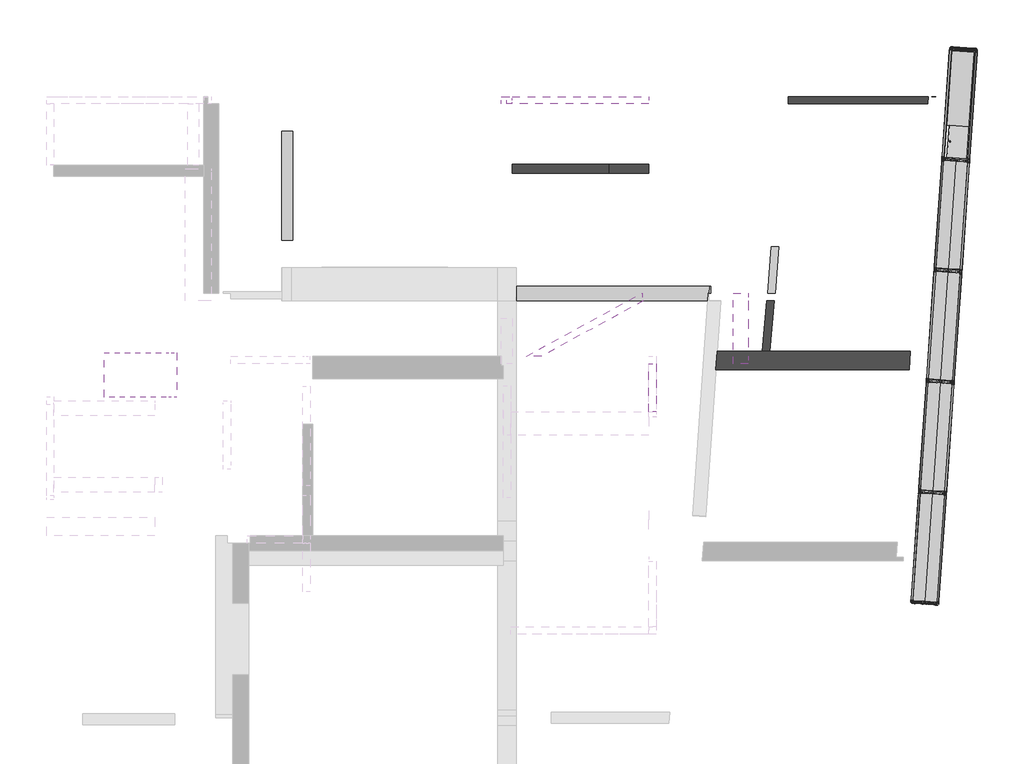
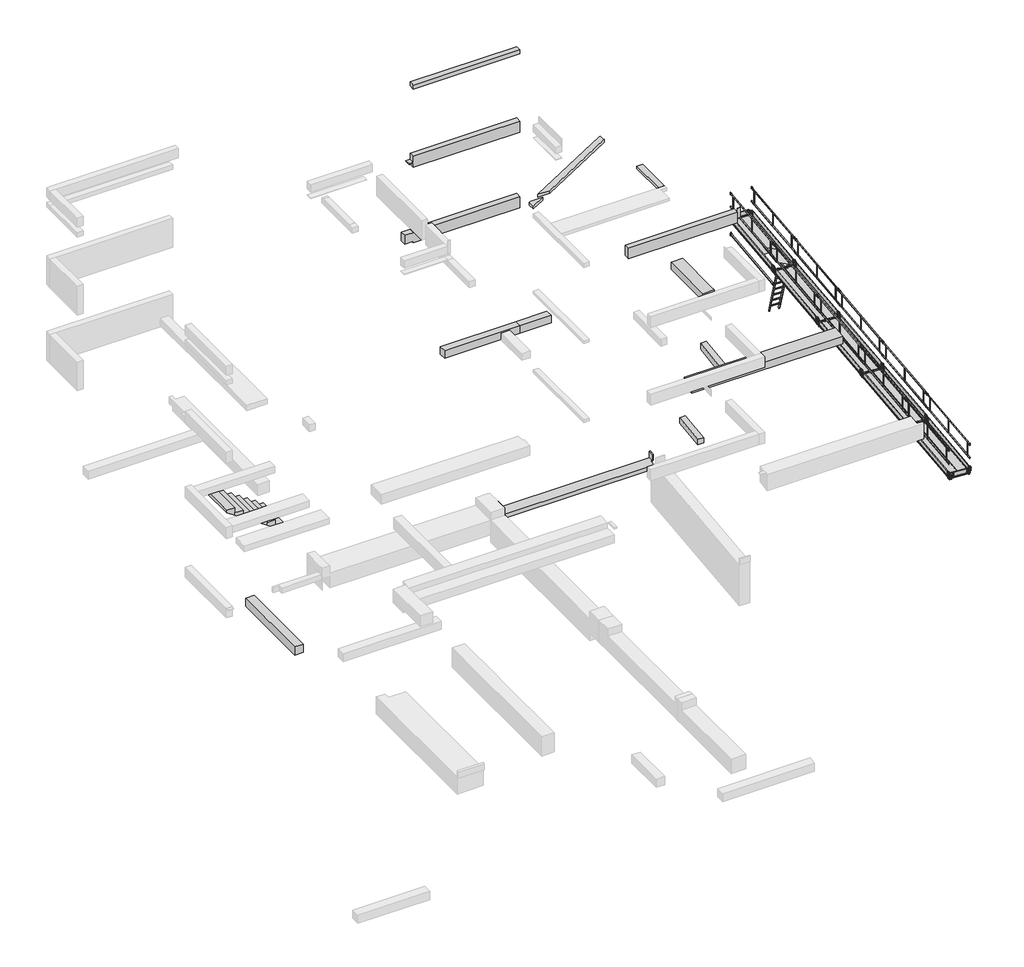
# One storey, part 3 of 3: 60 proxies, 14 beams, 1 stair flight.
"""IFC4 building model written with IfcOpenShell, lengths in millimetres."""

from ifc_helpers import new_model, si_unit, frame, origin, place, context, project, spatial, polyline, outline, extrude, faceted_brep, transform, mapped, element, save
from components import generic_models_b6224320, generic_models_870fb608, generic_models_6026e95e, generic_models_c9bf4d4e, generic_models_8fe25d63, generic_models_f49ab637, proxy_03_lisse_70_0da8a22d, proxy_04_lisse_3_m_913477d2

model = new_model("IFC4")

# Units and contexts
model_context = context("Model", 3, world=origin())
ifc_project = project(units=[si_unit("LENGTHUNIT", "METRE", prefix="MILLI")], contexts=[model_context])

# Site, building, storey
site = spatial("IfcSite", under=ifc_project)
building = spatial("IfcBuilding", under=site)
storey = spatial("IfcBuildingStorey", under=building, Name="02-Plateau 2", Elevation=2400.0)

# Beams
placement = place(None, origin())
element("IfcBeam", 1, ObjectType="Poutre rectangulaire - Béton : Coulée en place500x500 mm", at=placement, inside=storey, context=model_context, shape_type="Brep", body=[
    faceted_brep([(11980.8561586, 11619.8622276, 3780.0), (11980.8561586, 11619.8622276, 3510.0), (17203.2532738, 11619.8622276, 3510.0), (17203.2532738, 11619.8622276, 3780.0), (12015.8195646, 12119.8622276, 3510.0), (13239.5776398, 12119.8622276, 3510.0), (13440.3416073, 12119.8622276, 3510.0), (17238.2166797, 12119.8622276, 3510.0), (12015.8195646, 12119.8622276, 3780.0), (17238.2166797, 12119.8622276, 3780.0)], [[[0, 1, 2, 3]], [[1, 4, 5, 6, 7, 2]], [[4, 8, 9, 7, 6, 5]], [[1, 0, 8, 4]], [[3, 2, 7, 9]], [[0, 3, 9, 8]]]),
])
element("IfcBeam", 2, ObjectType="Poutre rectangulaire - Béton : Coulée en place 25x50", at=placement, inside=storey, context=model_context, shape_type="Brep", body=[
    faceted_brep([(6482.9552204, 16924.8622276, 3510.0), (9092.9552204, 16924.8622276, 3510.0), (9092.9552204, 16924.8622276, 3780.0), (6482.9552204, 16924.8622276, 3780.0), (9092.9552204, 17174.8622276, 3510.0), (6482.9552204, 17174.8622276, 3510.0), (6482.9552204, 17174.8622276, 3690.0), (6482.9552204, 17174.8622276, 3780.0), (9092.9552204, 17174.8622276, 3780.0)], [[[0, 1, 2, 3]], [[4, 1, 0, 5]], [[4, 5, 6, 7, 8]], [[1, 4, 8, 2]], [[5, 0, 3, 7, 6]], [[3, 2, 8, 7]]]),
])
element("IfcBeam", 3, ObjectType="Poutre rectangulaire - Béton : Coulée en place 25x50", at=placement, inside=storey, context=model_context, shape_type="Brep", body=[
    faceted_brep([(9092.9552204, 16924.8622276, 3510.0), (10172.9552204, 16924.8622276, 3510.0), (10172.9552204, 16924.8622276, 3780.0), (9092.9552204, 16924.8622276, 3780.0), (9092.9552204, 17174.8622276, 3510.0), (10172.9552204, 17174.8622276, 3510.0), (9092.9552204, 17174.8622276, 3780.0), (10172.9552204, 17174.8622276, 3780.0), (10172.9552204, 17174.8622276, 3690.0)], [[[0, 1, 2, 3]], [[0, 4, 5, 1]], [[5, 4, 6, 7, 8]], [[4, 0, 3, 6]], [[1, 5, 8, 7, 2]], [[3, 2, 7, 6]]]),
])
element("IfcBeam", 4, ObjectType="Poutre rectangulaire - Béton : Coulée en place 20x60", at=placement, inside=storey, context=model_context, shape_type="SweptSolid", body=[
    extrude(outline(polyline([(17719.3131459, 18999.8622276), (17705.3277835, 18799.8622276), (13932.9552204, 18799.8622276), (13936.6630444, 18852.8865803), (13932.9552204, 18853.1458566), (13932.9552204, 18999.8622276), (17719.3131459, 18999.8622276)])), frame((0.0, 0.0, 3410.0), z_axis=(0.0, 0.0, 1.0), x_axis=(1.0, 0.0, 0.0)), (0.0, 0.0, 1.0), 370.0),
    extrude(outline(polyline([(17919.8015255, 18999.8622276), (17919.3137407, 18992.8865803), (17819.5573357, 18999.8622276), (17919.8015255, 18999.8622276)])), frame((0.0, 0.0, 3410.0), z_axis=(0.0, 0.0, 1.0), x_axis=(1.0, 0.0, 0.0)), (0.0, 0.0, 1.0), 370.0),
])
element("IfcBeam", 5, ObjectType="Poutre rectangulaire - Béton : Coulée en place 20x40", at=placement, inside=storey, context=model_context, shape_type="Brep", body=[
    faceted_brep([(6482.9552204, 18999.8622276, 6590.0), (6482.9552204, 18999.8622276, 6650.0), (6182.9552204, 18999.8622276, 6650.0), (6182.9552204, 18999.8622276, 6770.0), (6182.9552204, 18999.8622276, 6970.0), (6482.9552204, 18999.8622276, 6970.0), (6482.9552204, 18999.8622276, 6990.0), (10172.9552204, 18999.8622276, 6990.0), (10172.9552204, 18999.8622276, 6900.0), (10172.9552204, 18999.8622276, 6650.0), (10172.9552204, 18999.8622276, 6590.0), (6482.9552204, 18799.8622276, 6590.0), (10172.9552204, 18799.8622276, 6590.0), (6482.9552204, 18799.8622276, 6650.0), (10172.9552204, 18799.8622276, 6660.0), (10172.9552204, 18799.8622276, 6900.0), (10172.9552204, 18799.8622276, 6990.0), (6482.9552204, 18799.8622276, 6990.0), (6482.9552204, 18799.8622276, 6970.0), (6182.9552204, 18799.8622276, 6970.0), (6182.9552204, 18799.8622276, 6900.0), (6182.9552204, 18799.8622276, 6770.0), (6182.9552204, 18799.8622276, 6650.0)], [[[0, 1, 2, 3, 4, 5, 6, 7, 8, 9, 10]], [[11, 0, 10, 12]], [[13, 11, 12, 14, 15, 16, 17, 18, 19, 20, 21, 22]], [[16, 7, 6, 17]], [[22, 21, 20, 19, 4, 3, 2]], [[7, 16, 15, 14, 12, 10, 9, 8]], [[1, 0, 11, 13]], [[1, 13, 22, 2]], [[5, 18, 17, 6]], [[18, 5, 4, 19]]]),
])
element("IfcBeam", 6, ObjectType="Poutre rectangulaire - Béton : Coulée en place 20x40", at=placement, inside=storey, context=model_context, shape_type="Brep", body=[
    faceted_brep([(6482.9552204, 18999.8622276, 9360.0), (6482.9552204, 18999.8622276, 9510.0), (6332.9552204, 18999.8622276, 9510.0), (6332.9552204, 18999.8622276, 9540.0), (6482.9552204, 18999.8622276, 9540.0), (6482.9552204, 18999.8622276, 9740.0), (6482.9552204, 18999.8622276, 9760.0), (10172.9552204, 18999.8622276, 9760.0), (10172.9552204, 18999.8622276, 9740.0), (10172.9552204, 18999.8622276, 9540.0), (10172.9552204, 18999.8622276, 9360.0), (10172.9552204, 18799.8622276, 9360.0), (6482.9552204, 18799.8622276, 9360.0), (6482.9552204, 18799.8622276, 9510.0), (6482.9552204, 18799.8622276, 9430.0), (10172.9552204, 18799.8622276, 9430.0), (10172.9552204, 18799.8622276, 9670.0), (10172.9552204, 18799.8622276, 9760.0), (6482.9552204, 18799.8622276, 9760.0), (6482.9552204, 18799.8622276, 9670.0), (6482.9552204, 18799.8622276, 9540.0), (6332.9552204, 18799.8622276, 9540.0), (6332.9552204, 18799.8622276, 9510.0)], [[[0, 1, 2, 3, 4, 5, 6, 7, 8, 9, 10]], [[10, 11, 12, 0]], [[13, 14, 12, 11, 15, 16, 17, 18, 19, 20, 21, 22]], [[17, 7, 6, 18]], [[11, 10, 9, 8, 7, 17, 16, 15]], [[1, 0, 12, 14, 13]], [[1, 13, 22, 2]], [[4, 3, 21, 20]], [[4, 20, 19, 18, 6, 5]], [[2, 22, 21, 3]]]),
])
element("IfcBeam", 7, ObjectType="Poutre rectangulaire - Béton : Coulée en place 20x61", at=placement, inside=storey, context=model_context, shape_type="Brep", body=[
    faceted_brep([(10172.9552204, 18999.8622276, 12220.0), (10172.9552204, 18799.8622276, 12220.0), (6482.9552204, 18799.8622276, 12220.0), (6482.9552204, 18999.8622276, 12220.0), (10172.9552204, 18799.8622276, 12370.0), (6482.9552204, 18799.8622276, 12370.0), (10172.9552204, 18999.8622276, 12370.0), (6482.9552204, 18899.8622276, 12370.0), (6482.9552204, 18999.8622276, 12370.0)], [[[0, 1, 2, 3]], [[1, 4, 5, 2]], [[0, 6, 4, 1]], [[2, 5, 7, 8, 3]], [[8, 7, 5, 4, 6]], [[6, 0, 3, 8]]]),
])
element("IfcBeam", 8, ObjectType="Poutre rectangulaire - Béton : Coulée en place 20x30", at=placement, inside=storey, context=model_context, shape_type="SweptSolid", body=[
    extrude(outline(polyline([(9997.9552204, 13479.8622276), (10023.4648011, 13479.8622276), (7274.7148011, 11979.8622276), (6857.1956398, 11979.8622276), (9972.4456398, 13679.8622276), (9997.9552204, 13679.8622276), (9997.9552204, 13479.8622276)])), frame((0.0, 0.0, 12270.0), z_axis=(0.0, 0.0, 1.0), x_axis=(1.0, 0.0, 0.0)), (0.0, 0.0, 1.0), 100.0),
    extrude(outline(polyline([(6490.6956398, 11779.8622276), (6908.2148011, 11779.8622276), (6432.9552204, 11520.5118426), (6432.9552204, 11748.3531311), (6490.6956398, 11779.8622276)])), frame((0.0, 0.0, 12270.0), z_axis=(0.0, 0.0, 1.0), x_axis=(1.0, 0.0, 0.0)), (0.0, 0.0, 1.0), 100.0),
])
element("IfcBeam", 9, ObjectType="Poutre rectangulaire - Béton : Coulée en place 40x38", at=placement, inside=storey, context=model_context, shape_type="Brep", body=[
    faceted_brep([(11845.6552204, 13879.8622276, -150.0), (11845.6552204, 13879.8622276, 80.0), (11845.6552204, 13686.837875, 80.0), (11845.6552204, 13686.837875, -150.0), (11803.6869502, 13686.837875, -150.0), (11817.1845278, 13879.8622276, -150.0), (11803.6869502, 13686.837875, 80.0), (11817.1845278, 13879.8622276, 80.0)], [[[0, 1, 2, 3]], [[0, 3, 4, 5]], [[3, 2, 6, 4]], [[7, 5, 4, 6]], [[1, 0, 5, 7]], [[2, 1, 7, 6]]]),
    faceted_brep([(6580.6552204, 13879.8622276, -300.0), (6580.6552204, 13879.8622276, 80.0), (6582.9552204, 13879.8622276, 80.0), (6582.9552204, 13879.8622276, -150.0), (11812.3364137, 13879.8622276, -150.0), (11812.3364137, 13879.8622276, -300.0), (6582.9552204, 13479.8622276, -300.0), (6582.9552204, 13579.8622276, -300.0), (6580.6552204, 13579.8622276, -300.0), (11798.838836, 13686.837875, -300.0), (11789.8015255, 13686.837875, -300.0), (11789.8015255, 13679.8622276, -300.0), (11774.0507269, 13679.8622276, -300.0), (11760.0653645, 13479.8622276, -300.0), (6582.9552204, 13479.8622276, -190.0), (11760.0653645, 13479.8622276, -150.0), (6582.9552204, 13479.8622276, -150.0), (6580.6552204, 13579.8622276, 80.0), (6582.9552204, 13579.8622276, 80.0), (6582.9552204, 13579.8622276, -150.0), (11774.0507269, 13679.8622276, -150.0), (11789.8015255, 13679.8622276, -150.0), (11789.8015255, 13686.837875, -150.0), (11798.838836, 13686.837875, -150.0)], [[[0, 1, 2, 3, 4, 5]], [[6, 7, 8, 0, 5, 9, 10, 11, 12, 13]], [[14, 6, 13, 15, 16]], [[1, 17, 18, 2]], [[7, 6, 14, 16, 19]], [[8, 7, 19, 18, 17]], [[1, 0, 8, 17]], [[3, 19, 16, 15, 20, 21, 22, 23, 4]], [[5, 4, 23, 9]], [[13, 12, 20, 15]], [[12, 11, 21, 20]], [[11, 10, 22, 21]], [[19, 3, 2, 18]], [[10, 9, 23, 22]]]),
])
element("IfcBeam", 10, ObjectType="Poutre rectangulaire - Béton : longrine 30x30", at=placement, inside=storey, context=model_context, shape_type="SweptSolid", body=[
    extrude(outline(polyline([(548.2393357, 15124.8622276), (248.2393357, 15124.8622276), (248.2393357, 18069.8622276), (548.2393357, 18069.8622276), (548.2393357, 15124.8622276)])), frame((0.0, 0.0, -4090.0), z_axis=(0.0, 0.0, 1.0), x_axis=(1.0, 0.0, 0.0)), (0.0, 0.0, 1.0), 300.0),
])
element("IfcBeam", 11, ObjectType="Poutre rectangulaire - Béton : BN 20x20", at=placement, inside=storey, context=model_context, shape_type="SweptSolid", body=[
    extrude(outline(polyline([(10173.5257924, 11779.8622276), (10373.5257924, 11779.8622276), (10373.5257924, 10479.8622276), (10173.5257924, 10479.8622276), (10173.5257924, 11779.8622276)])), frame((0.0, 0.0, 12270.0), z_axis=(0.0, 0.0, 1.0), x_axis=(1.0, 0.0, 0.0)), (0.0, 0.0, 1.0), 100.0),
])
element("IfcBeam", 12, ObjectType="Poutre rectangulaire - Béton : BN 20x23", at=placement, inside=storey, context=model_context, shape_type="SweptSolid", body=[
    extrude(outline(polyline([(13358.5622222, 13479.8622276), (13559.3261897, 13479.8622276), (13440.3416073, 12119.8622276), (13239.5776398, 12119.8622276), (13358.5622222, 13479.8622276)])), frame((0.0, 0.0, 3510.0), z_axis=(0.0, 0.0, 1.0), x_axis=(1.0, 0.0, 0.0)), (0.0, 0.0, 1.0), 230.0),
])
element("IfcBeam", 13, ObjectType="Poutre rectangulaire - Béton : BN 40x25", at=placement, inside=storey, context=model_context, shape_type="Brep", body=[
    faceted_brep([(12853.5257924, 13679.8622276, 6650.0), (12853.5257924, 13679.8622276, 6900.0), (12853.5257924, 11979.8622276, 6900.0), (12853.5257924, 11779.8622276, 6900.0), (12853.5257924, 11779.8622276, 6650.0), (12853.5257924, 11979.8622276, 6650.0), (12853.5257924, 13479.8622276, 6650.0), (12453.5257924, 13679.8622276, 6650.0), (12453.5257924, 11779.8622276, 6650.0), (12453.5257924, 13679.8622276, 6900.0), (12453.5257924, 11779.8622276, 6900.0)], [[[0, 1, 2, 3, 4, 5, 6]], [[7, 0, 6, 5, 4, 8]], [[9, 7, 8, 10]], [[1, 9, 10, 3, 2]], [[1, 0, 7, 9]], [[4, 3, 10, 8]]]),
])
element("IfcBeam", 14, ObjectType="Poutre rectangulaire - Béton : PR 20x20", at=placement, inside=storey, context=model_context, shape_type="SweptSolid", body=[
    extrude(outline(polyline([(13588.6331733, 13686.837875), (13388.1447937, 13686.837875), (13476.2525768, 14946.837875), (13676.7409564, 14946.837875), (13588.6331733, 13686.837875)])), frame((0.0, 0.0, -120.0), z_axis=(0.0, 0.0, 1.0), x_axis=(1.0, 0.0, 0.0)), (0.0, 0.0, 1.0), 200.0),
])

# Proxies
generic_models_shape = generic_models_b6224320(model_context)
element("IfcBuildingElementProxy", 15, Name="05-Plateau 3.00 m : JPA Plateau Galva", ObjectType="05-Plateau 3.00 m : JPA Plateau Galva", at=placement, inside=storey, context=model_context, shape_type="MappedRepresentation", body=[
    mapped(generic_models_shape, transform((17696.6144519, 11330.0091436, 2400.0), x_axis=(0.06975647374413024, 0.997564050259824, 0.0), y_axis=(-0.997564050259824, 0.06975647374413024, 0.0), z_axis=(0.0, 0.0, 1.0))),
])
element("IfcBuildingElementProxy", 16, Name="05-Plateau 3.00 m : JPA Plateau Galva", ObjectType="05-Plateau 3.00 m : JPA Plateau Galva", at=placement, inside=storey, context=model_context, shape_type="MappedRepresentation", body=[
    mapped(generic_models_shape, transform((17487.1106496, 8333.9651875, 2400.0), x_axis=(0.06975647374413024, 0.997564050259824, 0.0), y_axis=(-0.997564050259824, 0.06975647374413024, 0.0), z_axis=(0.0, 0.0, 1.0))),
])
element("IfcBuildingElementProxy", 17, Name="05-Plateau 3.00 m : JPA Plateau Galva", ObjectType="05-Plateau 3.00 m : JPA Plateau Galva", at=placement, inside=storey, context=model_context, shape_type="MappedRepresentation", body=[
    mapped(generic_models_shape, transform((17806.3311456, 8311.6431159, 2400.0), x_axis=(0.06975647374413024, 0.997564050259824, 0.0), y_axis=(-0.997564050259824, 0.06975647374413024, 0.0), z_axis=(0.0, 0.0, 1.0))),
])
element("IfcBuildingElementProxy", 18, Name="05-Plateau 3.00 m : JPA Plateau Galva", ObjectType="05-Plateau 3.00 m : JPA Plateau Galva", at=placement, inside=storey, context=model_context, shape_type="MappedRepresentation", body=[
    mapped(generic_models_shape, transform((17906.3948877, 14330.0091436, 2400.0), x_axis=(0.06975647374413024, 0.997564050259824, 0.0), y_axis=(-0.997564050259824, 0.06975647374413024, 0.0), z_axis=(0.0, 0.0, 1.0))),
])
element("IfcBuildingElementProxy", 19, Name="05-Plateau 3.00 m : JPA Plateau Galva", ObjectType="05-Plateau 3.00 m : JPA Plateau Galva", at=placement, inside=storey, context=model_context, shape_type="MappedRepresentation", body=[
    mapped(generic_models_shape, transform((17277.6068473, 5337.9212313, 2400.0), x_axis=(0.06975647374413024, 0.997564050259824, 0.0), y_axis=(-0.997564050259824, 0.06975647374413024, 0.0), z_axis=(0.0, 0.0, 1.0))),
])
element("IfcBuildingElementProxy", 20, Name="05-Plateau 3.00 m : JPA Plateau Galva", ObjectType="05-Plateau 3.00 m : JPA Plateau Galva", at=placement, inside=storey, context=model_context, shape_type="MappedRepresentation", body=[
    mapped(generic_models_shape, transform((17596.8273433, 5315.5991597, 2400.0), x_axis=(0.06975647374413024, 0.997564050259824, 0.0), y_axis=(-0.997564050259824, 0.06975647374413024, 0.0), z_axis=(0.0, 0.0, 1.0))),
])
generic_models_2_shape = generic_models_870fb608(model_context)
element("IfcBuildingElementProxy", 21, Name="07-Plancher trappe : JPA Plancher trappe", ObjectType="07-Plancher trappe : JPA Plancher trappe", at=placement, inside=storey, context=model_context, shape_type="MappedRepresentation", body=[
    mapped(generic_models_2_shape, transform((18805.6452405, 17256.0250248, 2400.0), x_axis=(0.0697564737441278, 0.9975640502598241, 0.0), y_axis=(-0.9975640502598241, 0.0697564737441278, 0.0), z_axis=(0.0, 0.0, 1.0))),
])
generic_models_3_shape = generic_models_6026e95e(model_context)
element("IfcBuildingElementProxy", 22, Name="11-Plinthe 0.70 : JPA Plinthe 0.70", ObjectType="11-Plinthe 0.70 : JPA Plinthe 0.70", at=placement, inside=storey, context=model_context, shape_type="MappedRepresentation", body=[
    mapped(generic_models_3_shape, transform((17293.9283677, 5332.6495195, 2400.0), x_axis=(0.9970739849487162, -0.07644258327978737, 0.0), y_axis=(0.07644258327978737, 0.9970739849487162, 0.0), z_axis=(0.0, 0.0, 1.0))),
])
element("IfcBuildingElementProxy", 23, Name="11-Plinthe 0.70 : JPA Plinthe 0.70", ObjectType="11-Plinthe 0.70 : JPA Plinthe 0.70", at=placement, inside=storey, context=model_context, shape_type="MappedRepresentation", body=[
    mapped(generic_models_3_shape, transform((18342.1895888, 20323.4833915, 2400.0), x_axis=(0.9970739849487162, -0.07644258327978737, 0.0), y_axis=(0.07644258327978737, 0.9970739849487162, 0.0), z_axis=(0.0, 0.0, 1.0))),
])
generic_models_4_shape = generic_models_c9bf4d4e(model_context)
element("IfcBuildingElementProxy", 24, Name="12-Plinthe 3 m : JPA Plinthe 3 m", ObjectType="12-Plinthe 3 m : JPA Plinthe 3 m", at=placement, inside=storey, context=model_context, shape_type="MappedRepresentation", body=[
    mapped(generic_models_4_shape, transform((17696.788843, 11332.5030537, 2400.0), x_axis=(0.06975647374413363, 0.9975640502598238, 0.0), y_axis=(-0.9975640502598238, 0.06975647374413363, 0.0), z_axis=(0.0, 0.0, 1.0))),
])
element("IfcBuildingElementProxy", 25, Name="12-Plinthe 3 m : JPA Plinthe 3 m", ObjectType="12-Plinthe 3 m : JPA Plinthe 3 m", at=placement, inside=storey, context=model_context, shape_type="MappedRepresentation", body=[
    mapped(generic_models_4_shape, transform((18395.0836782, 11283.6735221, 2400.0), x_axis=(0.06975647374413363, 0.9975640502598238, 0.0), y_axis=(-0.9975640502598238, 0.06975647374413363, 0.0), z_axis=(0.0, 0.0, 1.0))),
])
element("IfcBuildingElementProxy", 26, Name="12-Plinthe 3 m : JPA Plinthe 3 m", ObjectType="12-Plinthe 3 m : JPA Plinthe 3 m", at=placement, inside=storey, context=model_context, shape_type="MappedRepresentation", body=[
    mapped(generic_models_4_shape, transform((17906.2926453, 14328.5470098, 2400.0), x_axis=(0.06975647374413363, 0.9975640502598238, 0.0), y_axis=(-0.9975640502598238, 0.06975647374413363, 0.0), z_axis=(0.0, 0.0, 1.0))),
])
element("IfcBuildingElementProxy", 27, Name="12-Plinthe 3 m : JPA Plinthe 3 m", ObjectType="12-Plinthe 3 m : JPA Plinthe 3 m", at=placement, inside=storey, context=model_context, shape_type="MappedRepresentation", body=[
    mapped(generic_models_4_shape, transform((18604.5874805, 14279.7174782, 2400.0), x_axis=(0.06975647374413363, 0.9975640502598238, 0.0), y_axis=(-0.9975640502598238, 0.06975647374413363, 0.0), z_axis=(0.0, 0.0, 1.0))),
])
element("IfcBuildingElementProxy", 28, Name="12-Plinthe 3 m : JPA Plinthe 3 m", ObjectType="12-Plinthe 3 m : JPA Plinthe 3 m", at=placement, inside=storey, context=model_context, shape_type="MappedRepresentation", body=[
    mapped(generic_models_4_shape, transform((18115.7964476, 17324.590966, 2400.0), x_axis=(0.06975647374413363, 0.9975640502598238, 0.0), y_axis=(-0.9975640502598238, 0.06975647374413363, 0.0), z_axis=(0.0, 0.0, 1.0))),
])
element("IfcBuildingElementProxy", 29, Name="12-Plinthe 3 m : JPA Plinthe 3 m", ObjectType="12-Plinthe 3 m : JPA Plinthe 3 m", at=placement, inside=storey, context=model_context, shape_type="MappedRepresentation", body=[
    mapped(generic_models_4_shape, transform((18814.0912828, 17275.7614343, 2400.0), x_axis=(0.06975647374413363, 0.9975640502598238, 0.0), y_axis=(-0.9975640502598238, 0.06975647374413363, 0.0), z_axis=(0.0, 0.0, 1.0))),
])
element("IfcBuildingElementProxy", 30, Name="12-Plinthe 3 m : JPA Plinthe 3 m", ObjectType="12-Plinthe 3 m : JPA Plinthe 3 m", at=placement, inside=storey, context=model_context, shape_type="MappedRepresentation", body=[
    mapped(generic_models_4_shape, transform((17487.2850407, 8336.4590976, 2400.0), x_axis=(0.06975647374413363, 0.9975640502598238, 0.0), y_axis=(-0.9975640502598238, 0.06975647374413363, 0.0), z_axis=(0.0, 0.0, 1.0))),
])
element("IfcBuildingElementProxy", 31, Name="12-Plinthe 3 m : JPA Plinthe 3 m", ObjectType="12-Plinthe 3 m : JPA Plinthe 3 m", at=placement, inside=storey, context=model_context, shape_type="MappedRepresentation", body=[
    mapped(generic_models_4_shape, transform((18185.5798759, 8287.629566, 2400.0), x_axis=(0.06975647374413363, 0.9975640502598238, 0.0), y_axis=(-0.9975640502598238, 0.06975647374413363, 0.0), z_axis=(0.0, 0.0, 1.0))),
])
element("IfcBuildingElementProxy", 32, Name="12-Plinthe 3 m : JPA Plinthe 3 m", ObjectType="12-Plinthe 3 m : JPA Plinthe 3 m", at=placement, inside=storey, context=model_context, shape_type="MappedRepresentation", body=[
    mapped(generic_models_4_shape, transform((17277.7812384, 5340.4151415, 2400.0), x_axis=(0.06975647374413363, 0.9975640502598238, 0.0), y_axis=(-0.9975640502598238, 0.06975647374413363, 0.0), z_axis=(0.0, 0.0, 1.0))),
])
element("IfcBuildingElementProxy", 33, Name="12-Plinthe 3 m : JPA Plinthe 3 m", ObjectType="12-Plinthe 3 m : JPA Plinthe 3 m", at=placement, inside=storey, context=model_context, shape_type="MappedRepresentation", body=[
    mapped(generic_models_4_shape, transform((17976.0760736, 5291.5856098, 2400.0), x_axis=(0.06975647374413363, 0.9975640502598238, 0.0), y_axis=(-0.9975640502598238, 0.06975647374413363, 0.0), z_axis=(0.0, 0.0, 1.0))),
])
generic_models_5_shape = generic_models_8fe25d63(model_context)
element("IfcBuildingElementProxy", 34, Name="14-Garde corps 300 : JPA Garde corps 300", ObjectType="14-Garde corps 300 : JPA Garde corps 300", at=placement, inside=storey, context=model_context, shape_type="MappedRepresentation", body=[
    mapped(generic_models_5_shape, transform((17696.7673576, 11331.7493383, 2400.0), x_axis=(0.06975647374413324, 0.9975640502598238, 0.0), y_axis=(-0.9975640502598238, 0.06975647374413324, 0.0), z_axis=(0.0, 0.0, 1.0))),
])
element("IfcBuildingElementProxy", 35, Name="14-Garde corps 300 : JPA Garde corps 300", ObjectType="14-Garde corps 300 : JPA Garde corps 300", at=placement, inside=storey, context=model_context, shape_type="MappedRepresentation", body=[
    mapped(generic_models_5_shape, transform((17906.2711598, 14327.7932944, 2400.0), x_axis=(0.06975647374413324, 0.9975640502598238, 0.0), y_axis=(-0.9975640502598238, 0.06975647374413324, 0.0), z_axis=(0.0, 0.0, 1.0))),
])
element("IfcBuildingElementProxy", 36, Name="14-Garde corps 300 : JPA Garde corps 300", ObjectType="14-Garde corps 300 : JPA Garde corps 300", at=placement, inside=storey, context=model_context, shape_type="MappedRepresentation", body=[
    mapped(generic_models_5_shape, transform((18115.7749621, 17323.8372506, 2400.0), x_axis=(0.06975647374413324, 0.9975640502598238, 0.0), y_axis=(-0.9975640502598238, 0.06975647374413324, 0.0), z_axis=(0.0, 0.0, 1.0))),
])
element("IfcBuildingElementProxy", 37, Name="14-Garde corps 300 : JPA Garde corps 300", ObjectType="14-Garde corps 300 : JPA Garde corps 300", at=placement, inside=storey, context=model_context, shape_type="MappedRepresentation", body=[
    mapped(generic_models_5_shape, transform((17487.2635553, 8335.7053822, 2400.0), x_axis=(0.06975647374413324, 0.9975640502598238, 0.0), y_axis=(-0.9975640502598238, 0.06975647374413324, 0.0), z_axis=(0.0, 0.0, 1.0))),
])
element("IfcBuildingElementProxy", 38, Name="14-Garde corps 300 : JPA Garde corps 300", ObjectType="14-Garde corps 300 : JPA Garde corps 300", at=placement, inside=storey, context=model_context, shape_type="MappedRepresentation", body=[
    mapped(generic_models_5_shape, transform((18814.2002275, 17273.8372506, 2400.0), x_axis=(0.06975647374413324, 0.9975640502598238, 0.0), y_axis=(-0.9975640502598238, 0.06975647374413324, 0.0), z_axis=(0.0, 0.0, 1.0))),
])
element("IfcBuildingElementProxy", 39, Name="14-Garde corps 300 : JPA Garde corps 300", ObjectType="14-Garde corps 300 : JPA Garde corps 300", at=placement, inside=storey, context=model_context, shape_type="MappedRepresentation", body=[
    mapped(generic_models_5_shape, transform((18604.2002275, 14273.8372506, 2400.0), x_axis=(0.06975647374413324, 0.9975640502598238, 0.0), y_axis=(-0.9975640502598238, 0.06975647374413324, 0.0), z_axis=(0.0, 0.0, 1.0))),
])
element("IfcBuildingElementProxy", 40, Name="14-Garde corps 300 : JPA Garde corps 300", ObjectType="14-Garde corps 300 : JPA Garde corps 300", at=placement, inside=storey, context=model_context, shape_type="MappedRepresentation", body=[
    mapped(generic_models_5_shape, transform((18394.5820239, 11276.1572795, 2400.0), x_axis=(0.06975647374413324, 0.9975640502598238, 0.0), y_axis=(-0.9975640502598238, 0.06975647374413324, 0.0), z_axis=(0.0, 0.0, 1.0))),
])
element("IfcBuildingElementProxy", 41, Name="14-Garde corps 300 : JPA Garde corps 300", ObjectType="14-Garde corps 300 : JPA Garde corps 300", at=placement, inside=storey, context=model_context, shape_type="MappedRepresentation", body=[
    mapped(generic_models_5_shape, transform((18184.9638203, 8278.4773085, 2400.0), x_axis=(0.06975647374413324, 0.9975640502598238, 0.0), y_axis=(-0.9975640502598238, 0.06975647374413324, 0.0), z_axis=(0.0, 0.0, 1.0))),
])
element("IfcBuildingElementProxy", 42, Name="14-Garde corps 300 : JPA Garde corps 300", ObjectType="14-Garde corps 300 : JPA Garde corps 300", at=placement, inside=storey, context=model_context, shape_type="MappedRepresentation", body=[
    mapped(generic_models_5_shape, transform((17277.759753, 5339.6614261, 2400.0), x_axis=(0.06975647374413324, 0.9975640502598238, 0.0), y_axis=(-0.9975640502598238, 0.06975647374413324, 0.0), z_axis=(0.0, 0.0, 1.0))),
])
element("IfcBuildingElementProxy", 43, Name="14-Garde corps 300 : JPA Garde corps 300", ObjectType="14-Garde corps 300 : JPA Garde corps 300", at=placement, inside=storey, context=model_context, shape_type="MappedRepresentation", body=[
    mapped(generic_models_5_shape, transform((17975.460018, 5282.4333524, 2400.0), x_axis=(0.06975647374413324, 0.9975640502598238, 0.0), y_axis=(-0.9975640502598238, 0.06975647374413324, 0.0), z_axis=(0.0, 0.0, 1.0))),
])
generic_models_6_shape = generic_models_f49ab637(model_context)
element("IfcBuildingElementProxy", 44, Name="05-Plateau 3.00 m : JPA Plateau Galva", ObjectType="05-Plateau 3.00 m : JPA Plateau Galva", at=placement, inside=storey, context=model_context, shape_type="MappedRepresentation", body=[
    mapped(generic_models_6_shape, transform((18598.7043386, 14281.5981508, 2400.0), x_axis=(0.06975647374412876, 0.9975640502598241, 0.0), y_axis=(-0.9975640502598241, 0.06975647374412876, 0.0), z_axis=(0.0, 0.0, 1.0))),
])
element("IfcBuildingElementProxy", 45, Name="05-Plateau 3.00 m : JPA Plateau Galva", ObjectType="05-Plateau 3.00 m : JPA Plateau Galva", at=placement, inside=storey, context=model_context, shape_type="MappedRepresentation", body=[
    mapped(generic_models_6_shape, transform((18388.9239027, 11281.5981508, 2400.0), x_axis=(0.06975647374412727, 0.9975640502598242, 0.0), y_axis=(-0.9975640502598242, 0.06975647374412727, 0.0), z_axis=(0.0, 0.0, 1.0))),
])
proxy_03_lisse_70_shape = proxy_03_lisse_70_0da8a22d(model_context)
element("IfcBuildingElementProxy", 46, Name="03-Lisse 70 : JPA Lisse Galva", ObjectType="03-Lisse 70 : JPA Lisse Galva", at=placement, inside=storey, context=model_context, shape_type="MappedRepresentation", body=[
    mapped(proxy_03_lisse_70_shape, transform((17687.6637048, 11325.7592688, 2400.0), x_axis=(0.9975640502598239, -0.06975647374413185, 0.0), y_axis=(0.06975647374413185, 0.9975640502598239, 0.0), z_axis=(0.0, 0.0, 1.0))),
])
element("IfcBuildingElementProxy", 47, Name="03-Lisse 70 : JPA Lisse Galva", ObjectType="03-Lisse 70 : JPA Lisse Galva", at=placement, inside=storey, context=model_context, shape_type="MappedRepresentation", body=[
    mapped(proxy_03_lisse_70_shape, transform((17897.1675071, 14321.8032249, 2400.0), x_axis=(0.9975640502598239, -0.06975647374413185, 0.0), y_axis=(0.06975647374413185, 0.9975640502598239, 0.0), z_axis=(0.0, 0.0, 1.0))),
])
element("IfcBuildingElementProxy", 48, Name="03-Lisse 70 : JPA Lisse Galva", ObjectType="03-Lisse 70 : JPA Lisse Galva", at=placement, inside=storey, context=model_context, shape_type="MappedRepresentation", body=[
    mapped(proxy_03_lisse_70_shape, transform((18106.6713094, 17317.847181, 2400.0), x_axis=(0.9975640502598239, -0.06975647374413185, 0.0), y_axis=(0.06975647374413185, 0.9975640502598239, 0.0), z_axis=(0.0, 0.0, 1.0))),
])
element("IfcBuildingElementProxy", 49, Name="03-Lisse 70 : JPA Lisse Galva", ObjectType="03-Lisse 70 : JPA Lisse Galva", at=placement, inside=storey, context=model_context, shape_type="MappedRepresentation", body=[
    mapped(proxy_03_lisse_70_shape, transform((18311.1751117, 20323.8911372, 2400.0), x_axis=(0.9975640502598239, -0.06975647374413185, 0.0), y_axis=(0.06975647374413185, 0.9975640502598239, 0.0), z_axis=(0.0, 0.0, 1.0))),
])
element("IfcBuildingElementProxy", 50, Name="03-Lisse 70 : JPA Lisse Galva", ObjectType="03-Lisse 70 : JPA Lisse Galva", at=placement, inside=storey, context=model_context, shape_type="MappedRepresentation", body=[
    mapped(proxy_03_lisse_70_shape, transform((17478.1599025, 8329.7153127, 2400.0), x_axis=(0.9975640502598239, -0.06975647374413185, 0.0), y_axis=(0.06975647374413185, 0.9975640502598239, 0.0), z_axis=(0.0, 0.0, 1.0))),
])
element("IfcBuildingElementProxy", 51, Name="03-Lisse 70 : JPA Lisse Galva", ObjectType="03-Lisse 70 : JPA Lisse Galva", at=placement, inside=storey, context=model_context, shape_type="MappedRepresentation", body=[
    mapped(proxy_03_lisse_70_shape, transform((17478.1599025, 8329.7153127, 2400.0), x_axis=(0.9975640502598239, -0.06975647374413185, 0.0), y_axis=(0.06975647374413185, 0.9975640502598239, 0.0), z_axis=(0.0, 0.0, 1.0))),
])
element("IfcBuildingElementProxy", 52, Name="03-Lisse 70 : JPA Lisse Galva", ObjectType="03-Lisse 70 : JPA Lisse Galva", at=placement, inside=storey, context=model_context, shape_type="MappedRepresentation", body=[
    mapped(proxy_03_lisse_70_shape, transform((17268.6561002, 5333.6713565, 2400.0), x_axis=(0.9975640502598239, -0.06975647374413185, 0.0), y_axis=(0.06975647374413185, 0.9975640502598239, 0.0), z_axis=(0.0, 0.0, 1.0))),
])
proxy_04_lisse_3_m_shape = proxy_04_lisse_3_m_913477d2(model_context)
element("IfcBuildingElementProxy", 53, Name="04-Lisse 3 m : JPA Lisse Galva", ObjectType="04-Lisse 3 m : JPA Lisse Galva", at=placement, inside=storey, context=model_context, shape_type="MappedRepresentation", body=[
    mapped(proxy_04_lisse_3_m_shape, transform((18185.5798759, 8287.629566, 2400.0), x_axis=(0.06975647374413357, 0.9975640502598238, 0.0), y_axis=(-0.9975640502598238, 0.06975647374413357, 0.0), z_axis=(0.0, 0.0, 1.0))),
])
element("IfcBuildingElementProxy", 54, Name="04-Lisse 3 m : JPA Lisse Galva", ObjectType="04-Lisse 3 m : JPA Lisse Galva", at=placement, inside=storey, context=model_context, shape_type="MappedRepresentation", body=[
    mapped(proxy_04_lisse_3_m_shape, transform((18394.2117223, 11271.2039715, 2400.0), x_axis=(0.06975647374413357, 0.9975640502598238, 0.0), y_axis=(-0.9975640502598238, 0.06975647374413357, 0.0), z_axis=(0.0, 0.0, 1.0))),
])
element("IfcBuildingElementProxy", 55, Name="04-Lisse 3 m : JPA Lisse Galva", ObjectType="04-Lisse 3 m : JPA Lisse Galva", at=placement, inside=storey, context=model_context, shape_type="MappedRepresentation", body=[
    mapped(proxy_04_lisse_3_m_shape, transform((18604.1764114, 14273.838916, 2400.0), x_axis=(0.06975647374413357, 0.9975640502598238, 0.0), y_axis=(-0.9975640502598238, 0.06975647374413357, 0.0), z_axis=(0.0, 0.0, 1.0))),
])
element("IfcBuildingElementProxy", 56, Name="04-Lisse 3 m : JPA Lisse Galva", ObjectType="04-Lisse 3 m : JPA Lisse Galva", at=placement, inside=storey, context=model_context, shape_type="MappedRepresentation", body=[
    mapped(proxy_04_lisse_3_m_shape, transform((18813.5502996, 17268.0250134, 2400.0), x_axis=(0.06975647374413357, 0.9975640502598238, 0.0), y_axis=(-0.9975640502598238, 0.06975647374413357, 0.0), z_axis=(0.0, 0.0, 1.0))),
])
element("IfcBuildingElementProxy", 57, Name="04-Lisse 3 m : JPA Lisse Galva", ObjectType="04-Lisse 3 m : JPA Lisse Galva", at=placement, inside=storey, context=model_context, shape_type="MappedRepresentation", body=[
    mapped(proxy_04_lisse_3_m_shape, transform((17976.0760736, 5291.5856098, 2400.0), x_axis=(0.06975647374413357, 0.9975640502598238, 0.0), y_axis=(-0.9975640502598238, 0.06975647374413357, 0.0), z_axis=(0.0, 0.0, 1.0))),
])
element("IfcBuildingElementProxy", 58, Name="04-Lisse 3 m : JPA Lisse Galva", ObjectType="04-Lisse 3 m : JPA Lisse Galva", at=placement, inside=storey, context=model_context, shape_type="MappedRepresentation", body=[
    mapped(proxy_04_lisse_3_m_shape, transform((17487.2850407, 8336.4590976, 2400.0), x_axis=(0.06975647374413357, 0.9975640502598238, 0.0), y_axis=(-0.9975640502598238, 0.06975647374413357, 0.0), z_axis=(0.0, 0.0, 1.0))),
])
element("IfcBuildingElementProxy", 59, Name="04-Lisse 3 m : JPA Lisse Galva", ObjectType="04-Lisse 3 m : JPA Lisse Galva", at=placement, inside=storey, context=model_context, shape_type="MappedRepresentation", body=[
    mapped(proxy_04_lisse_3_m_shape, transform((17695.9168871, 11320.0335031, 2400.0), x_axis=(0.06975647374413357, 0.9975640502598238, 0.0), y_axis=(-0.9975640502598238, 0.06975647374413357, 0.0), z_axis=(0.0, 0.0, 1.0))),
])
element("IfcBuildingElementProxy", 60, Name="04-Lisse 3 m : JPA Lisse Galva", ObjectType="04-Lisse 3 m : JPA Lisse Galva", at=placement, inside=storey, context=model_context, shape_type="MappedRepresentation", body=[
    mapped(proxy_04_lisse_3_m_shape, transform((17905.8815762, 14322.6684476, 2400.0), x_axis=(0.06975647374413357, 0.9975640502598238, 0.0), y_axis=(-0.9975640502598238, 0.06975647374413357, 0.0), z_axis=(0.0, 0.0, 1.0))),
])
element("IfcBuildingElementProxy", 61, Name="04-Lisse 3 m : JPA Lisse Galva", ObjectType="04-Lisse 3 m : JPA Lisse Galva", at=placement, inside=storey, context=model_context, shape_type="MappedRepresentation", body=[
    mapped(proxy_04_lisse_3_m_shape, transform((18115.2554644, 17316.8545451, 2400.0), x_axis=(0.06975647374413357, 0.9975640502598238, 0.0), y_axis=(-0.9975640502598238, 0.06975647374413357, 0.0), z_axis=(0.0, 0.0, 1.0))),
])
element("IfcBuildingElementProxy", 62, Name="04-Lisse 3 m : JPA Lisse Galva", ObjectType="04-Lisse 3 m : JPA Lisse Galva", at=placement, inside=storey, context=model_context, shape_type="MappedRepresentation", body=[
    mapped(proxy_04_lisse_3_m_shape, transform((17277.7812384, 5340.4151415, 2400.0), x_axis=(0.06975647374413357, 0.9975640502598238, 0.0), y_axis=(-0.9975640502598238, 0.06975647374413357, 0.0), z_axis=(0.0, 0.0, 1.0))),
])
element("IfcBuildingElementProxy", 63, Name="04-Lisse 3 m : JPA Lisse Galva", ObjectType="04-Lisse 3 m : JPA Lisse Galva", at=placement, inside=storey, context=model_context, shape_type="MappedRepresentation", body=[
    mapped(proxy_04_lisse_3_m_shape, transform((17485.5798759, 8287.629566, 2400.0), x_axis=(0.06975647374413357, 0.9975640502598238, 0.0), y_axis=(-0.9975640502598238, 0.06975647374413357, 0.0), z_axis=(0.0, 0.0, 1.0))),
])
element("IfcBuildingElementProxy", 64, Name="04-Lisse 3 m : JPA Lisse Galva", ObjectType="04-Lisse 3 m : JPA Lisse Galva", at=placement, inside=storey, context=model_context, shape_type="MappedRepresentation", body=[
    mapped(proxy_04_lisse_3_m_shape, transform((17694.2117223, 11271.2039715, 2400.0), x_axis=(0.06975647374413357, 0.9975640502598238, 0.0), y_axis=(-0.9975640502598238, 0.06975647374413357, 0.0), z_axis=(0.0, 0.0, 1.0))),
])
element("IfcBuildingElementProxy", 65, Name="04-Lisse 3 m : JPA Lisse Galva", ObjectType="04-Lisse 3 m : JPA Lisse Galva", at=placement, inside=storey, context=model_context, shape_type="MappedRepresentation", body=[
    mapped(proxy_04_lisse_3_m_shape, transform((17904.1764114, 14273.838916, 2400.0), x_axis=(0.06975647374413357, 0.9975640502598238, 0.0), y_axis=(-0.9975640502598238, 0.06975647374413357, 0.0), z_axis=(0.0, 0.0, 1.0))),
])
element("IfcBuildingElementProxy", 66, Name="04-Lisse 3 m : JPA Lisse Galva", ObjectType="04-Lisse 3 m : JPA Lisse Galva", at=placement, inside=storey, context=model_context, shape_type="MappedRepresentation", body=[
    mapped(proxy_04_lisse_3_m_shape, transform((18113.5502996, 17268.0250134, 2400.0), x_axis=(0.06975647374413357, 0.9975640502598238, 0.0), y_axis=(-0.9975640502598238, 0.06975647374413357, 0.0), z_axis=(0.0, 0.0, 1.0))),
])
element("IfcBuildingElementProxy", 67, Name="04-Lisse 3 m : JPA Lisse Galva", ObjectType="04-Lisse 3 m : JPA Lisse Galva", at=placement, inside=storey, context=model_context, shape_type="MappedRepresentation", body=[
    mapped(proxy_04_lisse_3_m_shape, transform((17276.0760736, 5291.5856098, 2400.0), x_axis=(0.06975647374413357, 0.9975640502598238, 0.0), y_axis=(-0.9975640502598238, 0.06975647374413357, 0.0), z_axis=(0.0, 0.0, 1.0))),
])
element("IfcBuildingElementProxy", 68, Name="04-Lisse 3 m : JPA Lisse Galva", ObjectType="04-Lisse 3 m : JPA Lisse Galva", at=placement, inside=storey, context=model_context, shape_type="MappedRepresentation", body=[
    mapped(proxy_04_lisse_3_m_shape, transform((17500.8765554, 8353.1677495, 2400.0), x_axis=(0.06975647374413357, 0.9975640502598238, 0.0), y_axis=(-0.9975640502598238, 0.06975647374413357, 0.0), z_axis=(0.0, 0.0, 1.0))),
])
element("IfcBuildingElementProxy", 69, Name="04-Lisse 3 m : JPA Lisse Galva", ObjectType="04-Lisse 3 m : JPA Lisse Galva", at=placement, inside=storey, context=model_context, shape_type="MappedRepresentation", body=[
    mapped(proxy_04_lisse_3_m_shape, transform((17709.5084018, 11336.742155, 2400.0), x_axis=(0.06975647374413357, 0.9975640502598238, 0.0), y_axis=(-0.9975640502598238, 0.06975647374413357, 0.0), z_axis=(0.0, 0.0, 1.0))),
])
element("IfcBuildingElementProxy", 70, Name="04-Lisse 3 m : JPA Lisse Galva", ObjectType="04-Lisse 3 m : JPA Lisse Galva", at=placement, inside=storey, context=model_context, shape_type="MappedRepresentation", body=[
    mapped(proxy_04_lisse_3_m_shape, transform((17919.4730909, 14339.3770995, 2400.0), x_axis=(0.06975647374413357, 0.9975640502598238, 0.0), y_axis=(-0.9975640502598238, 0.06975647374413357, 0.0), z_axis=(0.0, 0.0, 1.0))),
])
element("IfcBuildingElementProxy", 71, Name="04-Lisse 3 m : JPA Lisse Galva", ObjectType="04-Lisse 3 m : JPA Lisse Galva", at=placement, inside=storey, context=model_context, shape_type="MappedRepresentation", body=[
    mapped(proxy_04_lisse_3_m_shape, transform((18128.846979, 17333.563197, 2400.0), x_axis=(0.06975647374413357, 0.9975640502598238, 0.0), y_axis=(-0.9975640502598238, 0.06975647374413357, 0.0), z_axis=(0.0, 0.0, 1.0))),
])
element("IfcBuildingElementProxy", 72, Name="04-Lisse 3 m : JPA Lisse Galva", ObjectType="04-Lisse 3 m : JPA Lisse Galva", at=placement, inside=storey, context=model_context, shape_type="MappedRepresentation", body=[
    mapped(proxy_04_lisse_3_m_shape, transform((17291.3727531, 5357.1237934, 2400.0), x_axis=(0.06975647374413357, 0.9975640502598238, 0.0), y_axis=(-0.9975640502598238, 0.06975647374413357, 0.0), z_axis=(0.0, 0.0, 1.0))),
])
element("IfcBuildingElementProxy", 73, Name="04-Lisse 3 m : JPA Lisse Galva", ObjectType="04-Lisse 3 m : JPA Lisse Galva", at=placement, inside=storey, context=model_context, shape_type="MappedRepresentation", body=[
    mapped(proxy_04_lisse_3_m_shape, transform((18813.5502996, 17316.1645653, 1904.7559527), x_axis=(0.06975647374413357, 0.9975640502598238, 0.0), y_axis=(-0.9975640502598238, 0.06975647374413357, 0.0), z_axis=(0.0, 0.0, 1.0))),
])
element("IfcBuildingElementProxy", 74, Name="04-Lisse 3 m : JPA Lisse Galva", ObjectType="04-Lisse 3 m : JPA Lisse Galva", at=placement, inside=storey, context=model_context, shape_type="MappedRepresentation", body=[
    mapped(proxy_04_lisse_3_m_shape, transform((18128.846979, 17333.563197, 1900.0), x_axis=(0.06975647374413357, 0.9975640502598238, 0.0), y_axis=(-0.9975640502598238, 0.06975647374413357, 0.0), z_axis=(0.0, 0.0, 1.0))),
])

# Stair flight
element("IfcStairFlight", 75, ObjectType="Profondeur de structure 80 mm", at=placement, inside=storey, context=model_context, shape_type="Brep", body=[
    faceted_brep([(-2870.4151884, 10879.8622276, 4338.0), (-2590.4151884, 10879.8622276, 4338.0), (-2590.4151884, 12079.8622276, 4338.0), (-2870.4151884, 12079.8622276, 4338.0), (-2870.4151884, 10879.8622276, 4241.6401303), (-2733.9298879, 10879.8622276, 4150.0), (-2590.4151884, 10879.8622276, 4150.0), (-2590.4151884, 12079.8622276, 4150.0), (-2733.9298879, 12079.8622276, 4150.0), (-2870.4151884, 12079.8622276, 4241.6401303), (-3150.4151884, 10879.8622276, 4526.0), (-2870.4151884, 10879.8622276, 4526.0), (-2870.4151884, 12079.8622276, 4526.0), (-3150.4151884, 12079.8622276, 4526.0), (-3150.4151884, 10879.8622276, 4429.6401303), (-3150.4151884, 12079.8622276, 4429.6401303), (-3430.4151884, 10879.8622276, 4714.0), (-3150.4151884, 10879.8622276, 4714.0), (-3150.4151884, 12079.8622276, 4714.0), (-3430.4151884, 12079.8622276, 4714.0), (-3430.4151884, 10879.8622276, 4617.6401303), (-3430.4151884, 12079.8622276, 4617.6401303), (-3710.4151884, 10879.8622276, 4902.0), (-3430.4151884, 10879.8622276, 4902.0), (-3430.4151884, 12079.8622276, 4902.0), (-3710.4151884, 12079.8622276, 4902.0), (-3710.4151884, 10879.8622276, 4805.6401303), (-3710.4151884, 12079.8622276, 4805.6401303), (-3990.4151884, 10879.8622276, 5090.0), (-3710.4151884, 10879.8622276, 5090.0), (-3710.4151884, 12079.8622276, 5090.0), (-3990.4151884, 12079.8622276, 5090.0), (-3990.4151884, 10879.8622276, 4993.6401303), (-3990.4151884, 12079.8622276, 4993.6401303), (-4270.4151884, 10879.8622276, 5278.0), (-3990.4151884, 10879.8622276, 5278.0), (-3990.4151884, 12079.8622276, 5278.0), (-4270.4151884, 12079.8622276, 5278.0), (-4270.4151884, 10879.8622276, 5181.6401303), (-4270.4151884, 12079.8622276, 5181.6401303), (-4550.4151884, 10879.8622276, 5466.0), (-4270.4151884, 10879.8622276, 5466.0), (-4270.4151884, 12079.8622276, 5466.0), (-4550.4151884, 12079.8622276, 5466.0), (-4550.4151884, 10879.8622276, 5369.6401303), (-4550.4151884, 12079.8622276, 5369.6401303)], [[[0, 1, 2, 3]], [[1, 0, 4, 5, 6]], [[2, 1, 6, 7]], [[3, 2, 7, 8, 9]], [[10, 11, 12, 13]], [[11, 10, 14, 4, 0]], [[0, 3, 12, 11]], [[13, 12, 3, 9, 15]], [[16, 17, 18, 19]], [[17, 16, 20, 14, 10]], [[10, 13, 18, 17]], [[19, 18, 13, 15, 21]], [[22, 23, 24, 25]], [[23, 22, 26, 20, 16]], [[16, 19, 24, 23]], [[25, 24, 19, 21, 27]], [[28, 29, 30, 31]], [[29, 28, 32, 26, 22]], [[22, 25, 30, 29]], [[31, 30, 25, 27, 33]], [[34, 35, 36, 37]], [[35, 34, 38, 32, 28]], [[28, 31, 36, 35]], [[37, 36, 31, 33, 39]], [[40, 41, 42, 43]], [[41, 40, 44, 38, 34]], [[34, 37, 42, 41]], [[43, 42, 37, 39, 45]], [[40, 43, 45, 44]], [[7, 6, 5, 8]], [[8, 5, 4, 14, 20, 26, 32, 38, 44, 45, 39, 33, 27, 21, 15, 9]]]),
])

save(model, "model.ifc")
